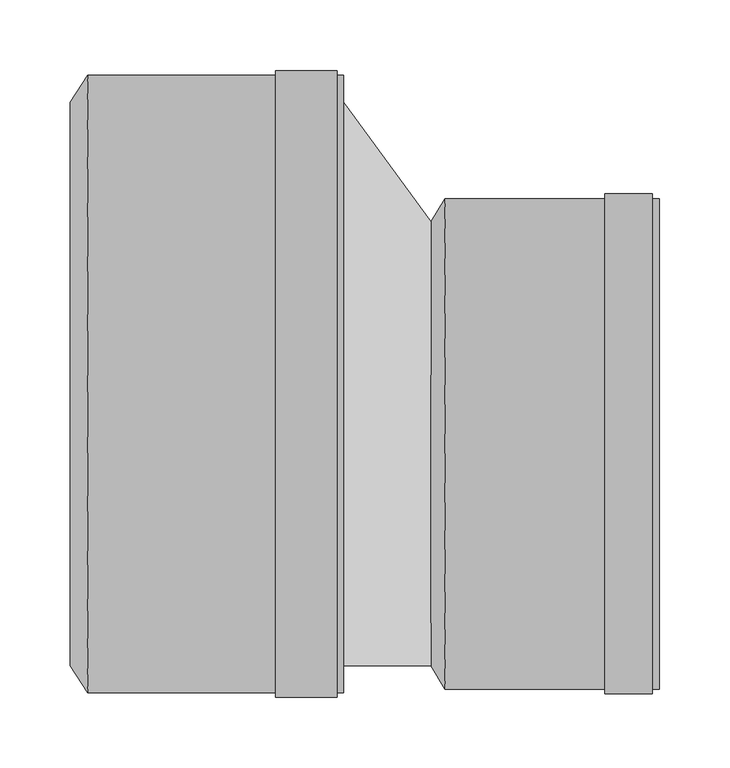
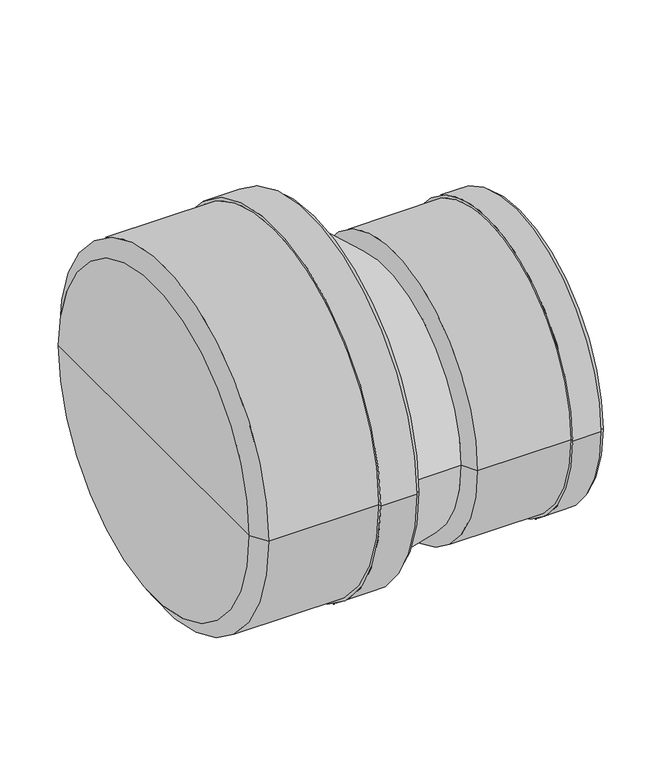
"""IFC4 building model written with IfcOpenShell, lengths in millimetres: pipe fitting geometry, pf_KGR_red-nes : pf_KGR_red-nes."""

from ifc_helpers import new_model, si_unit, frame, origin, place, context, project, spatial, polyline, circle_curve, source, transform, mapped, element, save
from ifc_brep_helpers import plane_surface, cylinder_surface, revolved_surface, spline_surface, advanced_brep


def pipe_fitting_37186c2c(model_context):
    return source(origin(), model_context, "Body", "AdvancedBrep", [
        advanced_brep(
        [(-194.0, -200.0, 0.0), (-194.0, 200.0, 0.0), (-181.8, 219.1, 0.0), (-181.8, -219.1, 0.0), (-194.0, 0.0, 0.0), (0.0, -219.1, 0.0), (0.0, 219.1, 0.0), (0.0, 200.0, 0.0), (0.0, -200.0, 0.0), (-4.8, -219.1, 0.0), (-4.8, 219.1, 0.0), (-4.8, -222.5, 0.0), (-4.8, 222.5, 0.0), (-48.4, -222.5, 0.0), (-48.4, 222.5, 0.0), (-48.4, -219.1, 0.0), (-48.4, 219.1, 0.0), (-181.8, -200.0, 0.0), (-181.8, 200.0, 0.0), (-181.8, 0.0, 0.0)],
        [
            (0, 1, circle_curve(frame((-194.0, 0.0, 0.0), z_axis=(1.0, 0.0, 0.0), x_axis=(0.0, 1.0, 0.0)), 200.0)),
            (1, 2),
            (2, 3, circle_curve(frame((-181.8, 0.0, 0.0), z_axis=(-1.0, 0.0, 0.0), x_axis=(0.0, 1.0, 0.0)), 219.1)),
            (3, 0),
            (1, 0, circle_curve(frame((-194.0, 0.0, 0.0), z_axis=(1.0, 0.0, 0.0), x_axis=(0.0, 1.0, 0.0)), 200.0)),
            (3, 2, circle_curve(frame((-181.8, 0.0, 0.0), z_axis=(-1.0, 0.0, 0.0), x_axis=(0.0, 1.0, 0.0)), 219.1)),
            (4, 1),
            (0, 4),
            (5, 6, circle_curve(frame((0.0, 0.0, 0.0), z_axis=(1.0, 0.0, 0.0), x_axis=(0.0, 1.0, 0.0)), 219.1)),
            (6, 7),
            (7, 8, circle_curve(frame((0.0, 0.0, 0.0), z_axis=(-1.0, 0.0, 0.0), x_axis=(0.0, 1.0, 0.0)), 200.0)),
            (8, 5),
            (6, 5, circle_curve(frame((0.0, 0.0, 0.0), z_axis=(1.0, 0.0, 0.0), x_axis=(0.0, 1.0, 0.0)), 219.1)),
            (8, 7, circle_curve(frame((0.0, 0.0, 0.0), z_axis=(-1.0, 0.0, 0.0), x_axis=(0.0, 1.0, 0.0)), 200.0)),
            (9, 10, circle_curve(frame((-4.8, 0.0, 0.0), z_axis=(1.0, 0.0, 0.0), x_axis=(0.0, 1.0, 0.0)), 219.1)),
            (10, 6),
            (5, 9),
            (10, 9, circle_curve(frame((-4.8, 0.0, 0.0), z_axis=(1.0, 0.0, 0.0), x_axis=(0.0, 1.0, 0.0)), 219.1)),
            (11, 12, circle_curve(frame((-4.8, 0.0, 0.0), z_axis=(1.0, 0.0, 0.0), x_axis=(0.0, 1.0, 0.0)), 222.5)),
            (12, 10),
            (9, 11),
            (12, 11, circle_curve(frame((-4.8, 0.0, 0.0), z_axis=(1.0, 0.0, 0.0), x_axis=(0.0, 1.0, 0.0)), 222.5)),
            (13, 14, circle_curve(frame((-48.4, 0.0, 0.0), z_axis=(1.0, 0.0, 0.0), x_axis=(0.0, 1.0, 0.0)), 222.5)),
            (14, 12),
            (11, 13),
            (14, 13, circle_curve(frame((-48.4, 0.0, 0.0), z_axis=(1.0, 0.0, 0.0), x_axis=(0.0, 1.0, 0.0)), 222.5)),
            (15, 16, circle_curve(frame((-48.4, 0.0, 0.0), z_axis=(1.0, 0.0, 0.0), x_axis=(0.0, 1.0, 0.0)), 219.1)),
            (16, 14),
            (13, 15),
            (16, 15, circle_curve(frame((-48.4, 0.0, 0.0), z_axis=(1.0, 0.0, 0.0), x_axis=(0.0, 1.0, 0.0)), 219.1)),
            (2, 16),
            (15, 3),
            (17, 18, circle_curve(frame((-181.8, 0.0, 0.0), z_axis=(1.0, 0.0, 0.0), x_axis=(0.0, 1.0, 0.0)), 200.0)),
            (18, 19),
            (19, 17),
            (18, 17, circle_curve(frame((-181.8, 0.0, 0.0), z_axis=(1.0, 0.0, 0.0), x_axis=(0.0, 1.0, 0.0)), 200.0)),
            (7, 18),
            (17, 8),
        ],
        [
            revolved_surface(polyline([(-181.8, 219.1, 0.0), (-194.0, 200.0, 0.0)]), (-194.0, 0.0, 0.0), (-1.0, 0.0, 0.0)),
            plane_surface(frame((-194.0, 0.0, 0.0), z_axis=(-1.0, 0.0, 0.0), x_axis=(0.0, 1.0, 0.0))),
            plane_surface(frame((0.0, 0.0, 0.0), z_axis=(1.0, 0.0, 0.0), x_axis=(0.0, 1.0, 0.0))),
            cylinder_surface(frame((-194.0, 0.0, 0.0), z_axis=(-1.0, 0.0, 0.0), x_axis=(0.0, 1.0, 0.0)), 219.1),
            plane_surface(frame((-4.8, 0.0, 0.0), z_axis=(1.0, 0.0, 0.0), x_axis=(0.0, 1.0, 0.0))),
            cylinder_surface(frame((-194.0, 0.0, 0.0), z_axis=(-1.0, 0.0, 0.0), x_axis=(0.0, 1.0, 0.0)), 222.5),
            plane_surface(frame((-48.4, 0.0, 0.0), z_axis=(-1.0, 0.0, 0.0), x_axis=(0.0, 1.0, 0.0))),
            plane_surface(frame((-181.8, 0.0, 0.0), z_axis=(1.0, 0.0, 0.0), x_axis=(0.0, 1.0, 0.0))),
            revolved_surface(polyline([(-181.8, 200.0, 0.0), (0.0, 200.0, 0.0)]), (-194.0, 0.0, 0.0), (-1.0, 0.0, 0.0)),
        ],
        [
            (0, [[1, 2, 3, 4]]),
            (0, [[5, -4, 6, -2]]),
            (1, [[7, -1, 8]]),
            (1, [[-8, -5, -7]]),
            (2, [[9, 10, 11, 12]]),
            (2, [[13, -12, 14, -10]]),
            (3, [[15, 16, -9, 17]]),
            (3, [[18, -17, -13, -16]]),
            (4, [[19, 20, -15, 21]]),
            (4, [[22, -21, -18, -20]]),
            (5, [[23, 24, -19, 25]]),
            (5, [[26, -25, -22, -24]]),
            (6, [[27, 28, -23, 29]]),
            (6, [[30, -29, -26, -28]]),
            (3, [[-3, 31, -27, 32]]),
            (3, [[-6, -32, -30, -31]]),
            (7, [[33, 34, 35]]),
            (7, [[36, -35, -34]]),
            (8, [[-11, 37, -33, 38]]),
            (8, [[-14, -38, -36, -37]]),
        ],
    ),
        advanced_brep(
        [(62.25, -200.0, 0.0), (62.25, 115.0, 0.0), (72.15, 131.6, 0.0), (72.15, -216.6, 0.0), (62.25, -42.5, 0.0), (224.25, -216.6, 0.0), (224.25, 131.6, 0.0), (224.25, 115.0, 0.0), (224.25, -200.0, 0.0), (219.45, -216.6, 0.0), (219.45, 131.6, 0.0), (219.45, -220.0, 0.0), (219.45, 135.0, 0.0), (185.55, -220.0, 0.0), (185.55, 135.0, 0.0), (185.55, -216.6, 0.0), (185.55, 131.6, 0.0), (72.15, -200.0, 0.0), (72.15, 115.0, 0.0), (72.15, -42.5, 0.0)],
        [
            (0, 1, circle_curve(frame((62.25, -42.5, 0.0), z_axis=(1.0, 0.0, 0.0), x_axis=(0.0, 1.0, 0.0)), 157.5)),
            (1, 2),
            (2, 3, circle_curve(frame((72.15, -42.5, 0.0), z_axis=(-1.0, 0.0, 0.0), x_axis=(0.0, 1.0, 0.0)), 174.1)),
            (3, 0),
            (1, 0, circle_curve(frame((62.25, -42.5, 0.0), z_axis=(1.0, 0.0, 0.0), x_axis=(0.0, 1.0, 0.0)), 157.5)),
            (3, 2, circle_curve(frame((72.15, -42.5, 0.0), z_axis=(-1.0, 0.0, 0.0), x_axis=(0.0, 1.0, 0.0)), 174.1)),
            (4, 1),
            (0, 4),
            (5, 6, circle_curve(frame((224.25, -42.5, 0.0), z_axis=(1.0, 0.0, 0.0), x_axis=(0.0, 1.0, 0.0)), 174.1)),
            (6, 7),
            (7, 8, circle_curve(frame((224.25, -42.5, 0.0), z_axis=(-1.0, 0.0, 0.0), x_axis=(0.0, 1.0, 0.0)), 157.5)),
            (8, 5),
            (6, 5, circle_curve(frame((224.25, -42.5, 0.0), z_axis=(1.0, 0.0, 0.0), x_axis=(0.0, 1.0, 0.0)), 174.1)),
            (8, 7, circle_curve(frame((224.25, -42.5, 0.0), z_axis=(-1.0, 0.0, 0.0), x_axis=(0.0, 1.0, 0.0)), 157.5)),
            (9, 10, circle_curve(frame((219.45, -42.5, 0.0), z_axis=(1.0, 0.0, 0.0), x_axis=(0.0, 1.0, 0.0)), 174.1)),
            (10, 6),
            (5, 9),
            (10, 9, circle_curve(frame((219.45, -42.5, 0.0), z_axis=(1.0, 0.0, 0.0), x_axis=(0.0, 1.0, 0.0)), 174.1)),
            (11, 12, circle_curve(frame((219.45, -42.5, 0.0), z_axis=(1.0, 0.0, 0.0), x_axis=(0.0, 1.0, 0.0)), 177.5)),
            (12, 10),
            (9, 11),
            (12, 11, circle_curve(frame((219.45, -42.5, 0.0), z_axis=(1.0, 0.0, 0.0), x_axis=(0.0, 1.0, 0.0)), 177.5)),
            (13, 14, circle_curve(frame((185.55, -42.5, 0.0), z_axis=(1.0, 0.0, 0.0), x_axis=(0.0, 1.0, 0.0)), 177.5)),
            (14, 12),
            (11, 13),
            (14, 13, circle_curve(frame((185.55, -42.5, 0.0), z_axis=(1.0, 0.0, 0.0), x_axis=(0.0, 1.0, 0.0)), 177.5)),
            (15, 16, circle_curve(frame((185.55, -42.5, 0.0), z_axis=(1.0, 0.0, 0.0), x_axis=(0.0, 1.0, 0.0)), 174.1)),
            (16, 14),
            (13, 15),
            (16, 15, circle_curve(frame((185.55, -42.5, 0.0), z_axis=(1.0, 0.0, 0.0), x_axis=(0.0, 1.0, 0.0)), 174.1)),
            (2, 16),
            (15, 3),
            (17, 18, circle_curve(frame((72.15, -42.5, 0.0), z_axis=(1.0, 0.0, 0.0), x_axis=(0.0, 1.0, 0.0)), 157.5)),
            (18, 19),
            (19, 17),
            (18, 17, circle_curve(frame((72.15, -42.5, 0.0), z_axis=(1.0, 0.0, 0.0), x_axis=(0.0, 1.0, 0.0)), 157.5)),
            (7, 18),
            (17, 8),
        ],
        [
            revolved_surface(polyline([(72.15, 131.6, 0.0), (62.25, 115.0, 0.0)]), (62.25, -42.5, 0.0), (-1.0, 0.0, 0.0)),
            plane_surface(frame((62.25, -42.5, 0.0), z_axis=(-1.0, 0.0, 0.0), x_axis=(0.0, 1.0, 0.0))),
            plane_surface(frame((224.25, -42.5, 0.0), z_axis=(1.0, 0.0, 0.0), x_axis=(0.0, 1.0, 0.0))),
            cylinder_surface(frame((62.25, -42.5, 0.0), z_axis=(-1.0, 0.0, 0.0), x_axis=(0.0, 1.0, 0.0)), 174.1),
            plane_surface(frame((219.45, -42.5, 0.0), z_axis=(1.0, 0.0, 0.0), x_axis=(0.0, 1.0, 0.0))),
            cylinder_surface(frame((62.25, -42.5, 0.0), z_axis=(-1.0, 0.0, 0.0), x_axis=(0.0, 1.0, 0.0)), 177.5),
            plane_surface(frame((185.55, -42.5, 0.0), z_axis=(-1.0, 0.0, 0.0), x_axis=(0.0, 1.0, 0.0))),
            plane_surface(frame((72.15, -42.5, 0.0), z_axis=(1.0, 0.0, 0.0), x_axis=(0.0, 1.0, 0.0))),
            revolved_surface(polyline([(72.15, 115.0, 0.0), (224.25, 115.0, 0.0)]), (62.25, -42.5, 0.0), (-1.0, 0.0, 0.0)),
        ],
        [
            (0, [[1, 2, 3, 4]]),
            (0, [[5, -4, 6, -2]]),
            (1, [[7, -1, 8]]),
            (1, [[-8, -5, -7]]),
            (2, [[9, 10, 11, 12]]),
            (2, [[13, -12, 14, -10]]),
            (3, [[15, 16, -9, 17]]),
            (3, [[18, -17, -13, -16]]),
            (4, [[19, 20, -15, 21]]),
            (4, [[22, -21, -18, -20]]),
            (5, [[23, 24, -19, 25]]),
            (5, [[26, -25, -22, -24]]),
            (6, [[27, 28, -23, 29]]),
            (6, [[30, -29, -26, -28]]),
            (3, [[-3, 31, -27, 32]]),
            (3, [[-6, -32, -30, -31]]),
            (7, [[33, 34, 35]]),
            (7, [[36, -35, -34]]),
            (8, [[-11, 37, -33, 38]]),
            (8, [[-14, -38, -36, -37]]),
        ],
    ),
        advanced_brep(
        [(62.25, -200.0, 0.0), (62.25, 115.0, 0.0), (0.0, -200.0, 0.0), (0.0, 200.0, 0.0)],
        [
            (0, 1, circle_curve(frame((62.25, -42.5, 0.0), z_axis=(1.0, 0.0, 0.0), x_axis=(0.0, 1.0, 0.0)), 157.5)),
            (1, 0, circle_curve(frame((62.25, -42.5, 0.0), z_axis=(1.0, 0.0, 0.0), x_axis=(0.0, 1.0, 0.0)), 157.5)),
            (2, 3, circle_curve(frame((0.0, 0.0, 0.0), z_axis=(-1.0, 0.0, 0.0), x_axis=(0.0, 1.0, 0.0)), 200.0)),
            (3, 2, circle_curve(frame((0.0, 0.0, 0.0), z_axis=(-1.0, 0.0, 0.0), x_axis=(0.0, 1.0, 0.0)), 200.0)),
            (3, 1),
            (0, 2),
        ],
        [
            plane_surface(frame((62.25, -42.5, 0.0), z_axis=(1.0, 0.0, 0.0), x_axis=(0.0, 0.0, -1.0))),
            plane_surface(frame((0.0, 0.0, 0.0), z_axis=(-1.0, 0.0, 0.0), x_axis=(0.0, 0.0, -1.0))),
            spline_surface(2, 1, [[(0.0, -200.0, 0.0), (62.25, -200.0, 0.0)], [(0.0, -200.0, -200.0), (62.25, -200.0, -157.5)], [(0.0, 0.0, -200.0), (62.25, -42.5, -157.5)], [(0.0, 200.0, -200.0), (62.25, 115.0, -157.5)], [(0.0, 200.0, 0.0), (62.25, 115.0, 0.0)]], [3, 2, 3], [2, 2], [0.0, 1.0, 2.0], [0.0, 1.0], weights=[[1.0, 1.0], [0.7071067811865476, 0.7071067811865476], [1.0, 1.0], [0.7071067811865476, 0.7071067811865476], [1.0, 1.0]]),
            spline_surface(2, 1, [[(0.0, 200.0, 0.0), (62.25, 115.0, 0.0)], [(0.0, 200.0, 200.0), (62.25, 115.0, 157.5)], [(0.0, 0.0, 200.0), (62.25, -42.5, 157.5)], [(0.0, -200.0, 200.0), (62.25, -200.0, 157.5)], [(0.0, -200.0, 0.0), (62.25, -200.0, 0.0)]], [3, 2, 3], [2, 2], [0.0, 1.0, 2.0], [0.0, 1.0], weights=[[1.0, 1.0], [0.7071067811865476, 0.7071067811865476], [1.0, 1.0], [0.7071067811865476, 0.7071067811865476], [1.0, 1.0]]),
        ],
        [
            (0, [[1, 2]]),
            (1, [[3, 4]]),
            (2, [[-4, 5, -1, 6]]),
            (3, [[-3, -6, -2, -5]]),
        ],
    ),
    ])


if __name__ == "__main__":
    model = new_model("IFC4")
    model_context = context("Model", 3, world=origin())
    ifc_project = project(units=[si_unit("LENGTHUNIT", "METRE", prefix="MILLI")], contexts=[model_context])
    site = spatial("IfcSite", under=ifc_project)
    building = spatial("IfcBuilding", under=site)
    placement = place(None, origin())
    pipe_fitting_shape = pipe_fitting_37186c2c(model_context)
    element("IfcPipeFitting", 1, ObjectType="pf_KGR_red-nes : pf_KGR_red-nes", at=placement, inside=building, context=model_context, shape_type="MappedRepresentation", body=[
        mapped(pipe_fitting_shape, transform((0.0, 0.0, 0.0), x_axis=(1.0, 0.0, 0.0), y_axis=(0.0, 1.0, 0.0), z_axis=(0.0, 0.0, 1.0))),
    ])
    save(model, "model.ifc")
